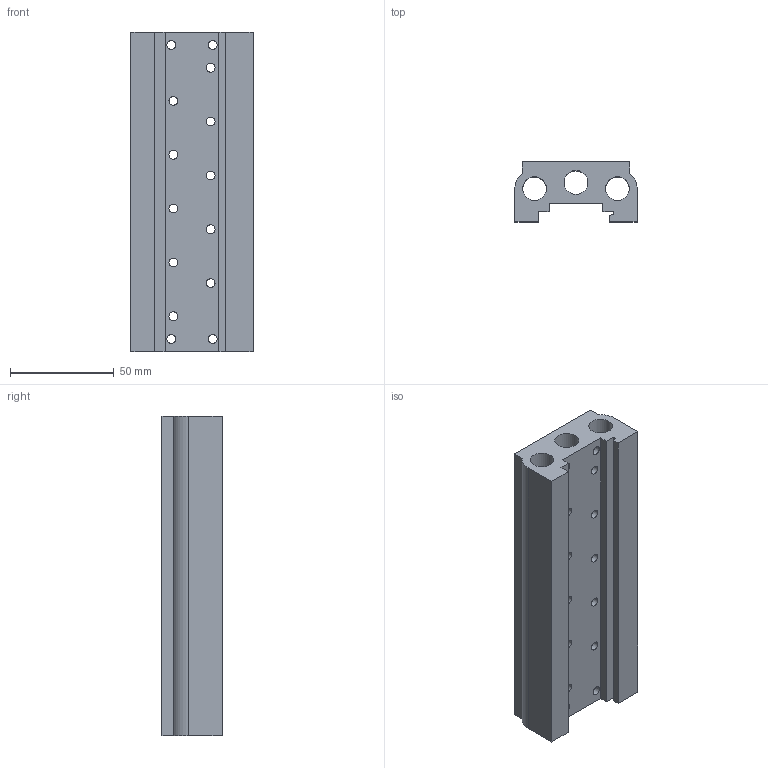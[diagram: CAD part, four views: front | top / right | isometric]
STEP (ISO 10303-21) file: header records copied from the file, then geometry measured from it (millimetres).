
FILE_DESCRIPTION((''),'2;1');
FILE_NAME('K:\A-Roberto\_Inventor\Rev.Librerie\TECNOECO\T488_ ##\T488_ 05.stp','2006-10-06T08:54:57',('rivolro1'),(''),'Autodesk Inventor 11','Autodesk Inventor 11','');
FILE_SCHEMA(('AUTOMOTIVE_DESIGN { 1 0 10303 214 1 1 1 1 }'));
Length unit declared in the file: millimetre
Products named in the file (1): T488_ 05
Bounding box: 59 x 29 x 154 mm (x, y, z)
Volume: 153635.4 mm3; surface area: 54298.6 mm2
Topology: 1 solids, 1 shells, 130 faces, 302 edges, 198 vertices
Faces by surface type: bspline 107, plane 18, cylinder 5
Full cylindrical faces by diameter (mm): 11.5 x3
Entity records: 5471 total; most frequent: CARTESIAN_POINT 3107, ORIENTED_EDGE 412, DIRECTION 360, EDGE_LOOP 294, EDGE_CURVE 206, VERTEX_POINT 178, FACE_BOUND 164, AXIS2_PLACEMENT_3D 155
